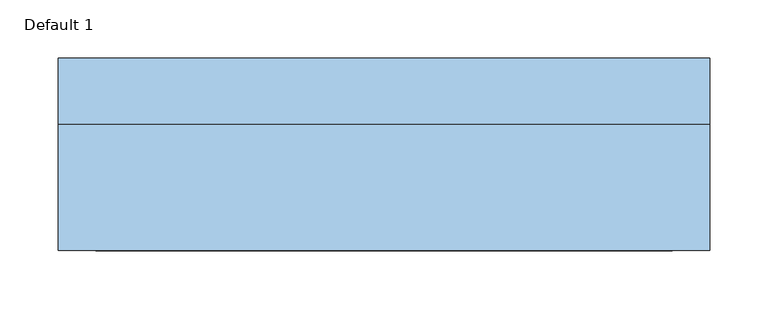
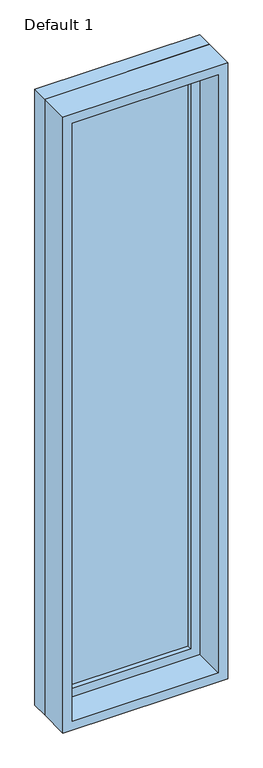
"""IFC4 building model written with IfcOpenShell, lengths in millimetres: window geometry, Planitar-Fixed : Default 1."""

from ifc_helpers import new_model, si_unit, frame, origin, place, context, project, spatial, polyline, outline, extrude, source, transform, mapped, element, save


def default_1_1963fb7e(model_context):
    return source(origin(), model_context, "Body", "SweptSolid", [
        extrude(outline(polyline([(3105.2, -260.4), (933.4, -260.4), (933.4, 260.4), (3105.2, 260.4), (3105.2, -260.4)]), holes=[polyline([(3061.2, -216.4), (3061.2, 216.4), (977.4, 216.4), (977.4, -216.4), (3061.2, -216.4)])]), frame((0.0, 38.85, 0.0), z_axis=(0.0, 1.0, 0.0), x_axis=(0.0, 0.0, 1.0)), (0.0, 0.0, 1.0), 44.0),
        extrude(outline(polyline([(3124.2, -279.4), (914.4, -279.4), (914.4, 279.4), (3124.2, 279.4), (3124.2, -279.4)]), holes=[polyline([(3105.2, -260.4), (3105.2, 260.4), (933.4, 260.4), (933.4, -260.4), (3105.2, -260.4)])]), frame((0.0, 38.85, 0.0), z_axis=(0.0, 1.0, 0.0), x_axis=(0.0, 0.0, 1.0)), (0.0, 0.0, 1.0), 56.7),
        extrude(outline(polyline([(3124.2, -279.4), (914.4, -279.4), (914.4, 279.4), (3124.2, 279.4), (3124.2, -279.4)]), holes=[polyline([(3092.2, -247.4), (3092.2, 247.4), (946.4, 247.4), (946.4, -247.4), (3092.2, -247.4)])]), frame((0.0, -69.55, 0.0), z_axis=(0.0, 1.0, 0.0), x_axis=(0.0, 0.0, 1.0)), (0.0, 0.0, 1.0), 108.4),
        extrude(outline(polyline([(-216.4, 66.85), (216.4, 66.85), (216.4, 54.85), (-216.4, 54.85), (-216.4, 66.85)])), frame((0.0, 0.0, 977.4), z_axis=(0.0, 0.0, 1.0), x_axis=(1.0, 0.0, 0.0)), (0.0, 0.0, 1.0), 2083.8),
    ])


if __name__ == "__main__":
    model = new_model("IFC4")
    model_context = context("Model", 3, world=origin())
    ifc_project = project(units=[si_unit("LENGTHUNIT", "METRE", prefix="MILLI")], contexts=[model_context])
    site = spatial("IfcSite", under=ifc_project)
    building = spatial("IfcBuilding", under=site)
    placement = place(None, origin())
    default_1_shape = default_1_1963fb7e(model_context)
    element("IfcWindow", 1, ObjectType="Planitar-Fixed : Default 1", at=placement, inside=building, context=model_context, shape_type="MappedRepresentation", body=[
        mapped(default_1_shape, transform((0.0, 0.0, 0.0), x_axis=(1.0, 0.0, 0.0), y_axis=(0.0, 1.0, 0.0), z_axis=(0.0, 0.0, 1.0))),
    ])
    save(model, "model.ifc")
